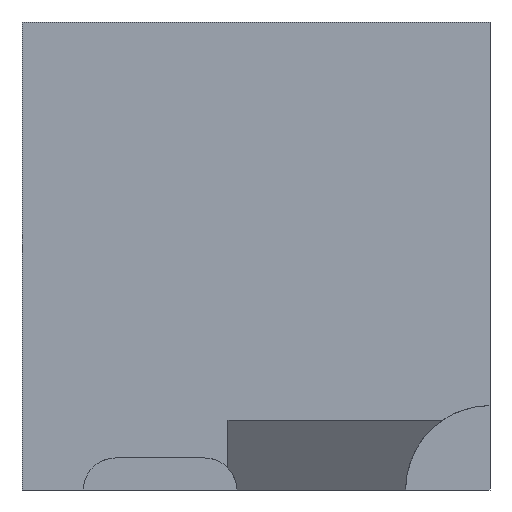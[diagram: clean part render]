
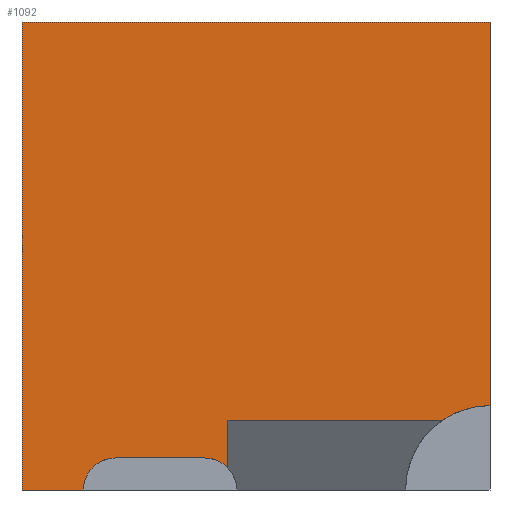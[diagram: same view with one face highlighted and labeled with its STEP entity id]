
A CAD part, left-side view. The second image highlights one B-rep face of the part: STEP entity #1092.
In plain terms, the highlighted planar face has unit normal (-1, 0, 0).
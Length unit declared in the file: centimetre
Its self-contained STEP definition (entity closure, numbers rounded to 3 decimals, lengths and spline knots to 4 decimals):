
#6 = VERTEX_POINT ( 'NONE', #128 ) ;
#47 = VERTEX_POINT ( 'NONE', #137 ) ;
#52 = VERTEX_POINT ( 'NONE', #839 ) ;
#66 = EDGE_CURVE ( 'NONE', #47, #1314, #488, .T. ) ;
#69 = FACE_OUTER_BOUND ( 'NONE', #1039, .T. ) ;
#79 = CARTESIAN_POINT ( 'NONE',  ( 0., 869.0582, 0. ) ) ;
#93 = CIRCLE ( 'NONE', #644, 68.4205 ) ;
#95 = ORIENTED_EDGE ( 'NONE', *, *, #946, .F. ) ;
#107 = CARTESIAN_POINT ( 'NONE',  ( 0., 0., 1000. ) ) ;
#112 = VECTOR ( 'NONE', #238, 100. ) ;
#114 = VECTOR ( 'NONE', #701, 100. ) ;
#118 = CARTESIAN_POINT ( 'NONE',  ( 0., 1000., 1000. ) ) ;
#128 = CARTESIAN_POINT ( 'NONE',  ( 0., 559.833, 149.5385 ) ) ;
#137 = CARTESIAN_POINT ( 'NONE',  ( 0., 1000., 1000. ) ) ;
#149 = ORIENTED_EDGE ( 'NONE', *, *, #870, .F. ) ;
#153 = DIRECTION ( 'NONE',  ( -1., 0., 0. ) ) ;
#173 = EDGE_CURVE ( 'NONE', #474, #1546, #713, .T. ) ;
#194 = ORIENTED_EDGE ( 'NONE', *, *, #880, .T. ) ;
#200 = EDGE_CURVE ( 'NONE', #1191, #981, #93, .T. ) ;
#226 = DIRECTION ( 'NONE',  ( 0., 0., -1. ) ) ;
#238 = DIRECTION ( 'NONE',  ( 0., -1., 0. ) ) ;
#261 = EDGE_CURVE ( 'NONE', #1314, #474, #1409, .T. ) ;
#270 = CARTESIAN_POINT ( 'NONE',  ( 0., 0., 0. ) ) ;
#296 = DIRECTION ( 'NONE',  ( -1., 0., 0. ) ) ;
#312 = AXIS2_PLACEMENT_3D ( 'NONE', #1429, #1292, #1031 ) ;
#398 = CARTESIAN_POINT ( 'NONE',  ( 0., 609.3093, 0. ) ) ;
#441 = AXIS2_PLACEMENT_3D ( 'NONE', #270, #153, #1123 ) ;
#449 = DIRECTION ( 'NONE',  ( 0., 0., -1. ) ) ;
#463 = LINE ( 'NONE', #1217, #114 ) ;
#464 = CARTESIAN_POINT ( 'NONE',  ( 0., 0., 180.4511 ) ) ;
#474 = VERTEX_POINT ( 'NONE', #464 ) ;
#488 = LINE ( 'NONE', #599, #846 ) ;
#496 = CARTESIAN_POINT ( 'NONE',  ( 0., 609.3093, 68.4205 ) ) ;
#519 = EDGE_CURVE ( 'NONE', #52, #771, #1342, .T. ) ;
#525 = PLANE ( 'NONE',  #312 ) ;
#573 = ORIENTED_EDGE ( 'NONE', *, *, #519, .T. ) ;
#576 = DIRECTION ( 'NONE',  ( 0., 1., 0. ) ) ;
#599 = CARTESIAN_POINT ( 'NONE',  ( 0., 1000., 1000. ) ) ;
#644 = AXIS2_PLACEMENT_3D ( 'NONE', #398, #296, #1378 ) ;
#689 = VECTOR ( 'NONE', #449, 100. ) ;
#701 = DIRECTION ( 'NONE',  ( 0., -1., 0. ) ) ;
#713 = CIRCLE ( 'NONE', #441, 180.4511 ) ;
#718 = LINE ( 'NONE', #118, #1495 ) ;
#757 = CARTESIAN_POINT ( 'NONE',  ( 0., 800.6377, 0. ) ) ;
#771 = VERTEX_POINT ( 'NONE', #79 ) ;
#784 = ORIENTED_EDGE ( 'NONE', *, *, #261, .F. ) ;
#819 = AXIS2_PLACEMENT_3D ( 'NONE', #757, #1475, #1257 ) ;
#839 = CARTESIAN_POINT ( 'NONE',  ( 0., 1000., 0. ) ) ;
#846 = VECTOR ( 'NONE', #1091, 100. ) ;
#851 = CARTESIAN_POINT ( 'NONE',  ( 0., 800.6377, 68.4205 ) ) ;
#857 = EDGE_CURVE ( 'NONE', #981, #1500, #1060, .T. ) ;
#859 = ORIENTED_EDGE ( 'NONE', *, *, #857, .F. ) ;
#870 = EDGE_CURVE ( 'NONE', #6, #1191, #949, .T. ) ;
#880 = EDGE_CURVE ( 'NONE', #47, #52, #718, .T. ) ;
#901 = CARTESIAN_POINT ( 'NONE',  ( 0., 559.833, 47.2595 ) ) ;
#903 = EDGE_CURVE ( 'NONE', #6, #1546, #463, .T. ) ;
#916 = ORIENTED_EDGE ( 'NONE', *, *, #66, .F. ) ;
#926 = ORIENTED_EDGE ( 'NONE', *, *, #903, .T. ) ;
#946 = EDGE_CURVE ( 'NONE', #1500, #771, #1282, .T. ) ;
#949 = LINE ( 'NONE', #1315, #951 ) ;
#951 = VECTOR ( 'NONE', #1453, 100. ) ;
#981 = VERTEX_POINT ( 'NONE', #496 ) ;
#1031 = DIRECTION ( 'NONE',  ( 0., 0., -1. ) ) ;
#1039 = EDGE_LOOP ( 'NONE', ( #926, #1509, #784, #916, #194, #573, #95, #859, #1329, #149 ) ) ;
#1060 = LINE ( 'NONE', #851, #1445 ) ;
#1091 = DIRECTION ( 'NONE',  ( 0., -1., 0. ) ) ;
#1092 = ADVANCED_FACE ( 'NONE', ( #69 ), #525, .F. ) ;
#1123 = DIRECTION ( 'NONE',  ( 0., 0., 1. ) ) ;
#1178 = CARTESIAN_POINT ( 'NONE',  ( 0., 800.6377, 68.4205 ) ) ;
#1191 = VERTEX_POINT ( 'NONE', #901 ) ;
#1197 = CARTESIAN_POINT ( 'NONE',  ( 0., 100.9993, 149.5385 ) ) ;
#1217 = CARTESIAN_POINT ( 'NONE',  ( 0., 559.833, 149.5385 ) ) ;
#1257 = DIRECTION ( 'NONE',  ( 0., 0., -1. ) ) ;
#1282 = CIRCLE ( 'NONE', #819, 68.4205 ) ;
#1292 = DIRECTION ( 'NONE',  ( 1., 0., 0. ) ) ;
#1303 = CARTESIAN_POINT ( 'NONE',  ( 0., 0., 1000. ) ) ;
#1314 = VERTEX_POINT ( 'NONE', #107 ) ;
#1315 = CARTESIAN_POINT ( 'NONE',  ( 0., 559.833, 0. ) ) ;
#1329 = ORIENTED_EDGE ( 'NONE', *, *, #200, .F. ) ;
#1342 = LINE ( 'NONE', #1455, #112 ) ;
#1378 = DIRECTION ( 'NONE',  ( 0., 0., -1. ) ) ;
#1409 = LINE ( 'NONE', #1303, #689 ) ;
#1429 = CARTESIAN_POINT ( 'NONE',  ( 0., 1000., 1000. ) ) ;
#1445 = VECTOR ( 'NONE', #576, 100. ) ;
#1453 = DIRECTION ( 'NONE',  ( 0., 0., -1. ) ) ;
#1455 = CARTESIAN_POINT ( 'NONE',  ( 0., 1000., 0. ) ) ;
#1475 = DIRECTION ( 'NONE',  ( -1., 0., 0. ) ) ;
#1495 = VECTOR ( 'NONE', #226, 100. ) ;
#1500 = VERTEX_POINT ( 'NONE', #1178 ) ;
#1509 = ORIENTED_EDGE ( 'NONE', *, *, #173, .F. ) ;
#1546 = VERTEX_POINT ( 'NONE', #1197 ) ;
